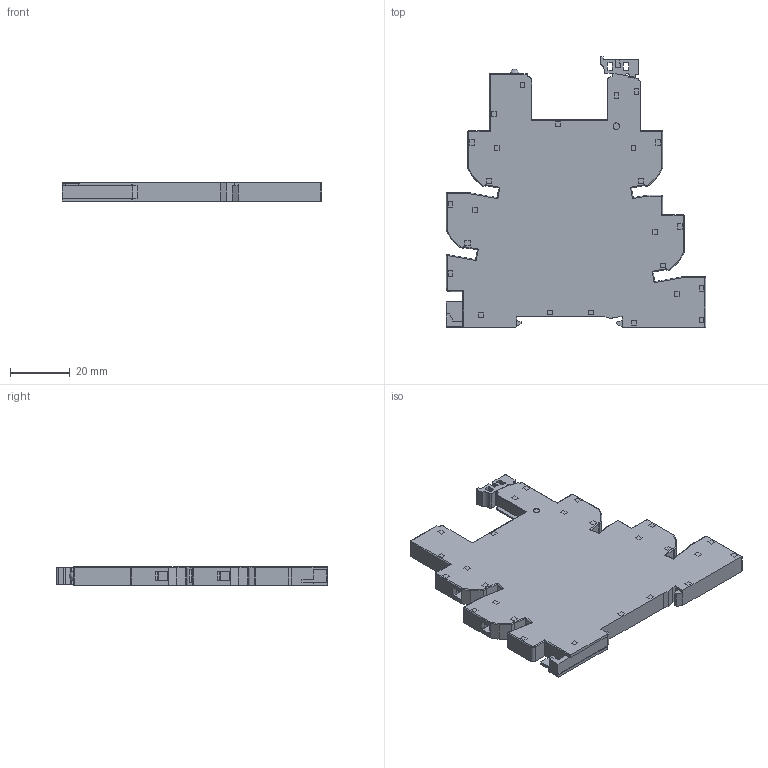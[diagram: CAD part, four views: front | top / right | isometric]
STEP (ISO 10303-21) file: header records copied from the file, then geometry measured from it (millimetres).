
FILE_DESCRIPTION(('STEP AP214'),'2;1');
FILE_NAME('93.61---skin.stp','2010-04-13T15:30:59',(''),(''),'2007.1.106','THINKDESIGN','');
FILE_SCHEMA(('AUTOMOTIVE_DESIGN'));
Length unit declared in the file: millimetre
Products named in the file (1): None
Bounding box: 87 x 90.7 x 6.2 mm (x, y, z)
Surface area: 15904 mm2 (no closed solid volume)
Topology: 0 solids, 0 shells, 657 faces, 3826 edges, 3810 vertices
Faces by surface type: plane 520, cylinder 121, bspline 16
Full cylindrical faces by diameter (mm): 1.5 x5, 2.2 x2, 3.9 x5, 4.3 x5
Entity records: 37684 total; most frequent: CARTESIAN_POINT 9579, DIRECTION 5019, COMPOSITE_CURVE_SEGMENT 3810, TRIMMED_CURVE 3528, VECTOR 3319, LINE 3319, AXIS2_PLACEMENT_3D 850, OUTER_BOUNDARY_CURVE 657
